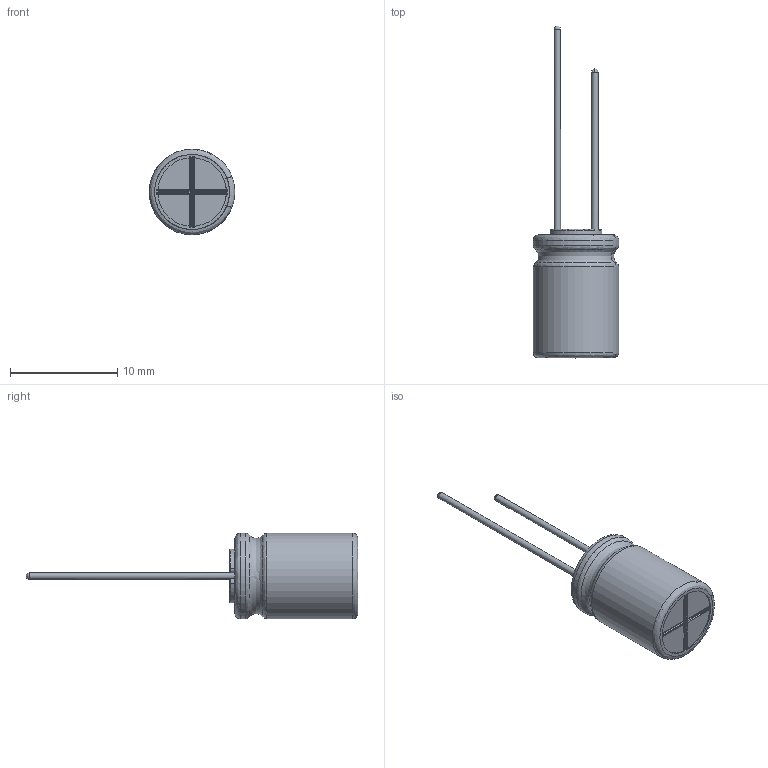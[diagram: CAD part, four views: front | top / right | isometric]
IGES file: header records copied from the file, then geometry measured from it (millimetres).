
Start section: JAMA-IS VERSION  1.0
Bounding box: 7.99 x 31 x 8 mm (x, y, z)
Surface area: 1078.4 mm2 (no closed solid volume)
Topology: 0 solids, 0 shells, 115 faces, 1347 edges, 1328 vertices
Faces by surface type: bspline 115
